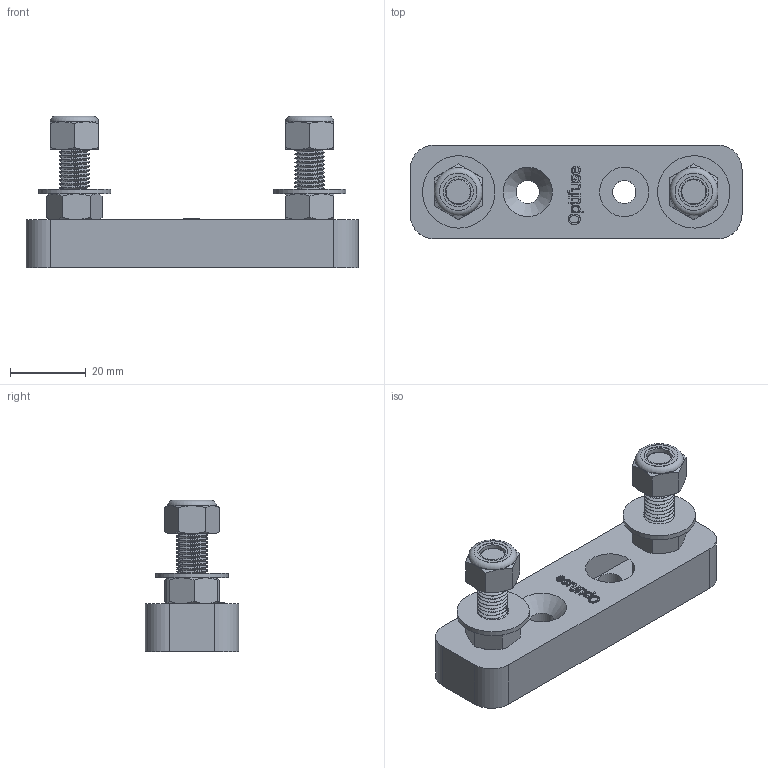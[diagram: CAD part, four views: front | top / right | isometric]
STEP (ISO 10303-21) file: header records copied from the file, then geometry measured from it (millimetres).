
FILE_DESCRIPTION(/* description */ (''),/* implementation_level */ '2;1');
FILE_NAME(/* name */ 'C:\Users\Hani\Desktop\work\BLC-09\BLC-09.stp',/* time_stamp */ '2021-07-06T15:40:18-07:00',/* author */ ('Hani'),/* organization */ (''),/* preprocessor_version */ 'ST-DEVELOPER v17',/* originating_system */ 'Autodesk Inventor 2019',/* authorisation */ '');
FILE_SCHEMA (('AUTOMOTIVE_DESIGN { 1 0 10303 214 3 1 1 }'));
Length unit declared in the file: inch
Products named in the file (6): BLC-08-GTA; BLC-08-GT; 5_16-24 HEX HEAD SCREW; 5_16-24 HEX NUT; FLAT WASHER; 5_16-24 Nylon-Insert Locknut
Assembly tree (9 placements, depth 2):
  BLC-08-GTA
    BLC-08-GT
    5_16-24 HEX HEAD SCREW  x2
    5_16-24 HEX NUT  x2
    FLAT WASHER  x2
    5_16-24 Nylon-Insert Locknut  x2
Bounding box: 87.38 x 24.64 x 39.88 mm (x, y, z)
Volume: 32944 mm3; surface area: 16149.9 mm2
Topology: 11 solids, 11 shells, 556 faces, 1472 edges, 970 vertices
Faces by surface type: cylinder 220, plane 175, bspline 79, cone 76, torus 6
Full cylindrical faces by diameter (mm): 6.096 x2, 6.563 x76, 6.747 x2, 6.782 x2, 7.938 x82, 8.255 x2, 19.05 x2
Entity records: 19002 total; most frequent: CARTESIAN_POINT 10883, ORIENTED_EDGE 1892, DIRECTION 1283, EDGE_CURVE 946, VERTEX_POINT 626, AXIS2_PLACEMENT_3D 429, LINE 425, VECTOR 425
